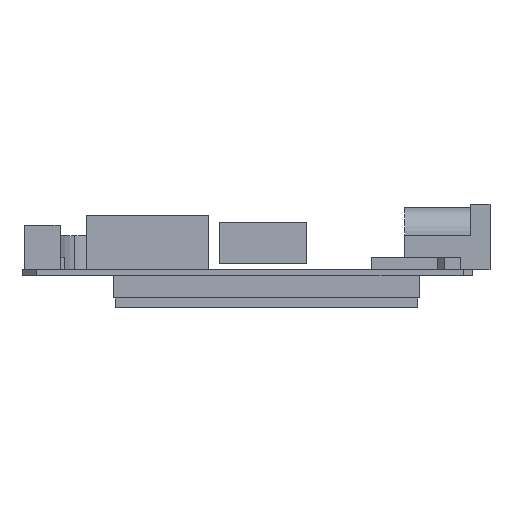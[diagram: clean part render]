
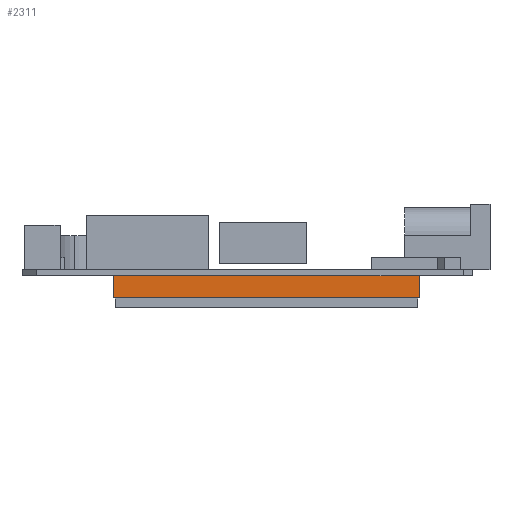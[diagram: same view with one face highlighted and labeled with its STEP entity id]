
A CAD part, left-side view. The second image highlights one B-rep face of the part: STEP entity #2311.
In plain terms, the highlighted planar face has unit normal (-1, 0, 0).
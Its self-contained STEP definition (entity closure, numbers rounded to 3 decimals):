
#476=DIRECTION('',(0.,1.,0.));
#477=VECTOR('',#476,51.);
#478=CARTESIAN_POINT('',(552.731,231.167,-1.));
#479=LINE('',#478,#477);
#618=DIRECTION('',(0.,0.,-1.));
#619=VECTOR('',#618,3.7);
#620=CARTESIAN_POINT('',(552.731,282.167,-1.));
#621=LINE('',#620,#619);
#622=DIRECTION('',(0.,0.,-1.));
#623=VECTOR('',#622,3.7);
#624=CARTESIAN_POINT('',(552.731,231.167,-1.));
#625=LINE('',#624,#623);
#638=DIRECTION('',(0.,1.,0.));
#639=VECTOR('',#638,51.);
#640=CARTESIAN_POINT('',(552.731,231.167,-4.7));
#641=LINE('',#640,#639);
#1592=CARTESIAN_POINT('',(552.731,231.167,-4.7));
#1593=VERTEX_POINT('',#1592);
#1594=CARTESIAN_POINT('',(552.731,282.167,-4.7));
#1595=VERTEX_POINT('',#1594);
#1600=CARTESIAN_POINT('',(552.731,231.167,-1.));
#1601=VERTEX_POINT('',#1600);
#1602=CARTESIAN_POINT('',(552.731,282.167,-1.));
#1603=VERTEX_POINT('',#1602);
#2298=CARTESIAN_POINT('',(552.731,231.167,-1.));
#2299=DIRECTION('',(-1.,0.,0.));
#2300=DIRECTION('',(0.,1.,0.));
#2301=AXIS2_PLACEMENT_3D('',#2298,#2299,#2300);
#2302=PLANE('',#2301);
#2303=ORIENTED_EDGE('',*,*,#1958,.F.);
#2305=ORIENTED_EDGE('',*,*,#2304,.T.);
#2307=ORIENTED_EDGE('',*,*,#2306,.T.);
#2308=ORIENTED_EDGE('',*,*,#2290,.F.);
#2309=EDGE_LOOP('',(#2303,#2305,#2307,#2308));
#2310=FACE_OUTER_BOUND('',#2309,.F.);
#1958=EDGE_CURVE('',#1601,#1603,#479,.T.);
#2290=EDGE_CURVE('',#1603,#1595,#621,.T.);
#2304=EDGE_CURVE('',#1601,#1593,#625,.T.);
#2306=EDGE_CURVE('',#1593,#1595,#641,.T.);
#2311=ADVANCED_FACE('',(#2310),#2302,.T.);
